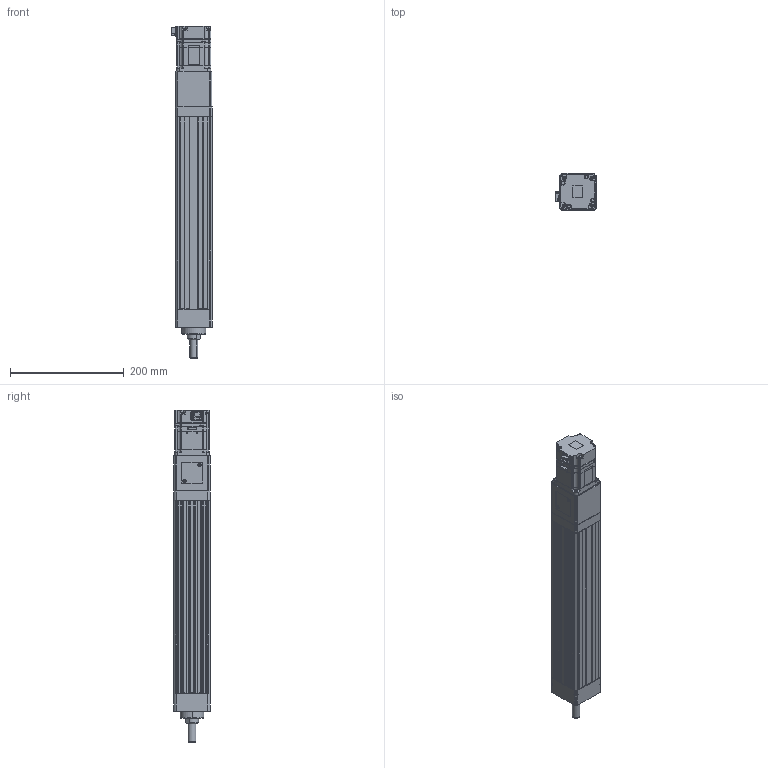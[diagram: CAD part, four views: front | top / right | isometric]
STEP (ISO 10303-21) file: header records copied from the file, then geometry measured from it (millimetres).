
FILE_DESCRIPTION (( 'STEP AP203' ), '1' );
FILE_NAME ('ANS065-S250-05(10)-W20-M.STEP', '2019-03-03T05:52:54', ( 'user' ), ( '' ), 'SwSTEP 2.0', 'SolidWorks 2013', '' );
FILE_SCHEMA (( 'CONFIG_CONTROL_DESIGN' ));
Length unit declared in the file: millimetre
Products named in the file (4): ANS065 ROD ST250-M; ANS065-S250-05(10)-W20-M; ANS065 S250 VER2; sgmjv_02a_a21
Assembly tree (3 placements, depth 2):
  ANS065-S250-05(10)-W20-M
    ANS065 S250 VER2
    sgmjv_02a_a21
    ANS065 ROD ST250-M
Bounding box: 71.3 x 65 x 584.6 mm (x, y, z)
Volume: 1385606.8 mm3; surface area: 326890.9 mm2
Topology: 3 solids, 7 shells, 1081 faces, 2861 edges, 1841 vertices
Faces by surface type: plane 637, cylinder 358, cone 86
Entity records: 33609 total; most frequent: CARTESIAN_POINT 5983, DIRECTION 5713, ORIENTED_EDGE 5674, EDGE_CURVE 2837, VECTOR 2007, LINE 2007, AXIS2_PLACEMENT_3D 1853, VERTEX_POINT 1841
